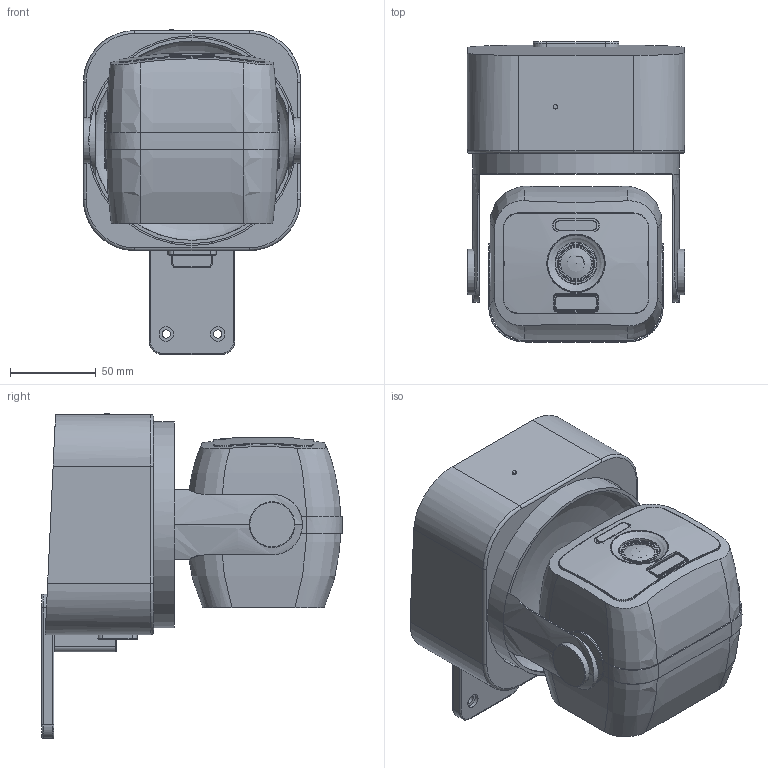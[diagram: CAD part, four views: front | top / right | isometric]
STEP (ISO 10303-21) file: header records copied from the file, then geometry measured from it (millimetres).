
FILE_DESCRIPTION(('Open CASCADE Model'),'2;1');
FILE_NAME('Open CASCADE Shape Model','2026-10-18T12:27:52',('Author'),( 'Open CASCADE'),'Open CASCADE STEP processor 8.0','Open CASCADE 8.0' ,'Unknown');
FILE_SCHEMA(('AUTOMOTIVE_DESIGN { 1 0 10303 214 1 1 1 1 }'));
Length unit declared in the file: millimetre
Products named in the file (35): Open CASCADE STEP translator 8.0 40; Open CASCADE STEP translator 8.0 41; Open CASCADE STEP translator 8.0 42; Open CASCADE STEP translator 8.0 43; Open CASCADE STEP translator 8.0 44; Open CASCADE STEP translator 8.0 45; Open CASCADE STEP translator 8.0 46; Open CASCADE STEP translator 8.0 47; Open CASCADE STEP translator 8.0 48; Open CASCADE STEP translator 8.0 49; Open CASCADE STEP translator 8.0 50; Open CASCADE STEP translator 8.0 51; Open CASCADE STEP translator 8.0 52; Open CASCADE STEP translator 8.0 53; Open CASCADE STEP translator 8.0 54; Open CASCADE STEP translator 8.0 55; Open CASCADE STEP translator 8.0 56; Open CASCADE STEP translator 8.0 57; Open CASCADE STEP translator 8.0 58; Open CASCADE STEP translator 8.0 59; Open CASCADE STEP translator 8.0 60; Open CASCADE STEP translator 8.0 61; Open CASCADE STEP translator 8.0 62; Open CASCADE STEP translator 8.0 63; Open CASCADE STEP translator 8.0 64; Open CASCADE STEP translator 8.0 65; Open CASCADE STEP translator 8.0 66; Open CASCADE STEP translator 8.0 67; Open CASCADE STEP translator 8.0 68; Open CASCADE STEP translator 8.0 69; Open CASCADE STEP translator 8.0 70; Open CASCADE STEP translator 8.0 71; Open CASCADE STEP translator 8.0 72; Open CASCADE STEP translator 8.0 73; Open CASCADE STEP translator 8.0 74
Bounding box: 126.4 x 174.8 x 189.2 mm (x, y, z)
Volume: 950171 mm3; surface area: 265944 mm2
Topology: 35 solids, 35 shells, 482 faces, 1065 edges, 659 vertices
Faces by surface type: cylinder 173, plane 158, torus 74, bspline 66, sphere 7, revolution 4
Full cylindrical faces by diameter (mm): 2.5 x1, 4.8 x4, 5.6 x1, 7 x1, 8.4 x4, 9.6 x1, 14 x1, 15.8 x1, 16 x1, 18 x1, 18.1 x1, 19.1 x1, 19.4 x1, 20 x1, 20.2 x1, 20.8 x1, 21.8 x1, 24.4 x1, 25 x2, 26.6 x2, 28.2 x2, 33 x3, 34 x2, 116 x2, 120 x1, 122 x1
Entity records: 43092 total; most frequent: CARTESIAN_POINT 21829, DIRECTION 3771, ORIENTED_EDGE 2128, PCURVE 2128, DEFINITIONAL_REPRESENTATION 2128, LINE 1934, VECTOR 1934, EDGE_CURVE 1064
